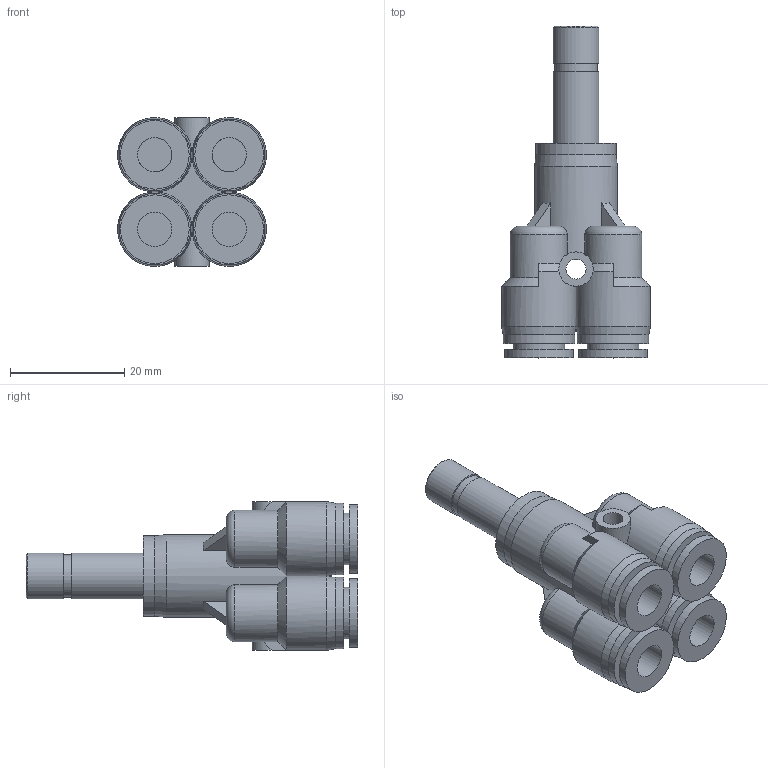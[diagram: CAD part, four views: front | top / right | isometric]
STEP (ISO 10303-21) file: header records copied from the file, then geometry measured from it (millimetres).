
FILE_DESCRIPTION(/* description */ (''),/* implementation_level */ '2;1');
FILE_NAME(/* name */ 'S:\_Tecnico\ArchivioUT\_Disegni3D ingombri\DISEGNI 3D per ingombri\RP\RP 76\RP760806.stp',/* time_stamp */ '2020-02-05T15:18:06+01:00',/* author */ ('UfficioTecnico'),/* organization */ (''),/* preprocessor_version */ 'ST-DEVELOPER v18',/* originating_system */ 'Autodesk Inventor 2020',/* authorisation */ '');
FILE_SCHEMA (('AUTOMOTIVE_DESIGN { 1 0 10303 214 3 1 1 }'));
Length unit declared in the file: millimetre
Products named in the file (1): RP760806
Bounding box: 26 x 58 x 26 mm (x, y, z)
Volume: 10803.4 mm3; surface area: 8208.3 mm2
Topology: 1 solids, 1 shells, 103 faces, 274 edges, 185 vertices
Faces by surface type: plane 48, cylinder 37, cone 14, torus 4
Full cylindrical faces by diameter (mm): 3.5 x1, 5.5 x1, 6 x6, 7.5 x1, 8 x2, 9 x4, 12 x4, 12.5 x4, 14 x1, 14.5 x1
Entity records: 3546 total; most frequent: CARTESIAN_POINT 819, DIRECTION 605, ORIENTED_EDGE 548, EDGE_CURVE 274, AXIS2_PLACEMENT_3D 257, VERTEX_POINT 185, CIRCLE 149, EDGE_LOOP 121
